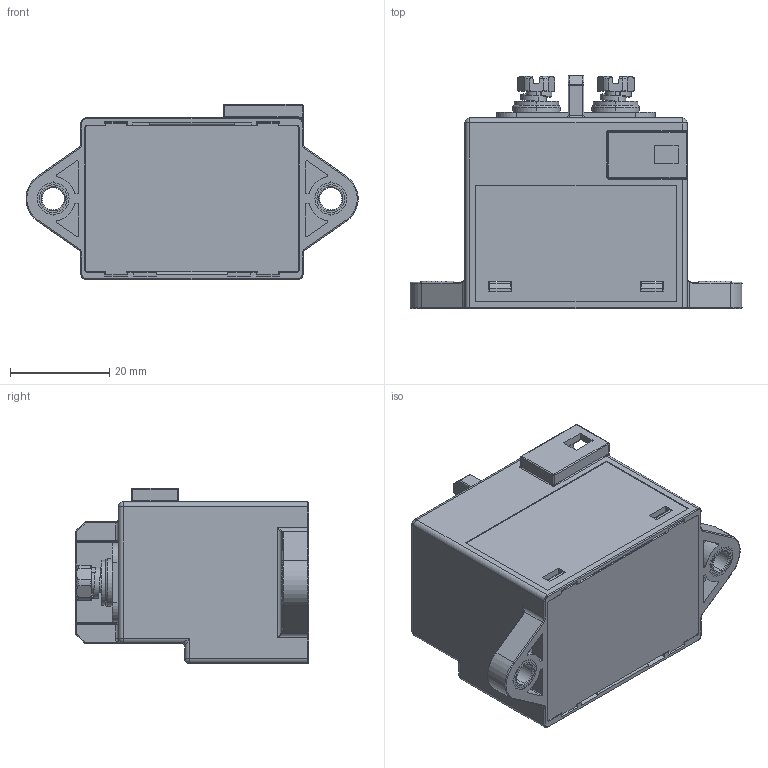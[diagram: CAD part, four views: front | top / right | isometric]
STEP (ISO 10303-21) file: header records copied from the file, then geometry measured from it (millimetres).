
FILE_DESCRIPTION (( 'STEP AP203' ), '1' );
FILE_NAME ('NDZ3T-40B.STEP', '2022-05-07T03:56:50', ( '' ), ( '' ), 'SwSTEP 2.0', 'SolidWorks 2018', '' );
FILE_SCHEMA (( 'CONFIG_CONTROL_DESIGN' ));
Length unit declared in the file: millimetre
Products named in the file (1): NDZ3T-40B
Bounding box: 66.96 x 47 x 35.3 mm (x, y, z)
Volume: 15170.8 mm3; surface area: 22151.6 mm2
Topology: 8 solids, 10 shells, 833 faces, 2147 edges, 1319 vertices
Faces by surface type: plane 409, cylinder 282, torus 80, bspline 26, sphere 22, cone 14
Entity records: 26007 total; most frequent: CARTESIAN_POINT 5863, ORIENTED_EDGE 4234, DIRECTION 4191, EDGE_CURVE 2117, AXIS2_PLACEMENT_3D 1429, VECTOR 1333, LINE 1333, VERTEX_POINT 1319
